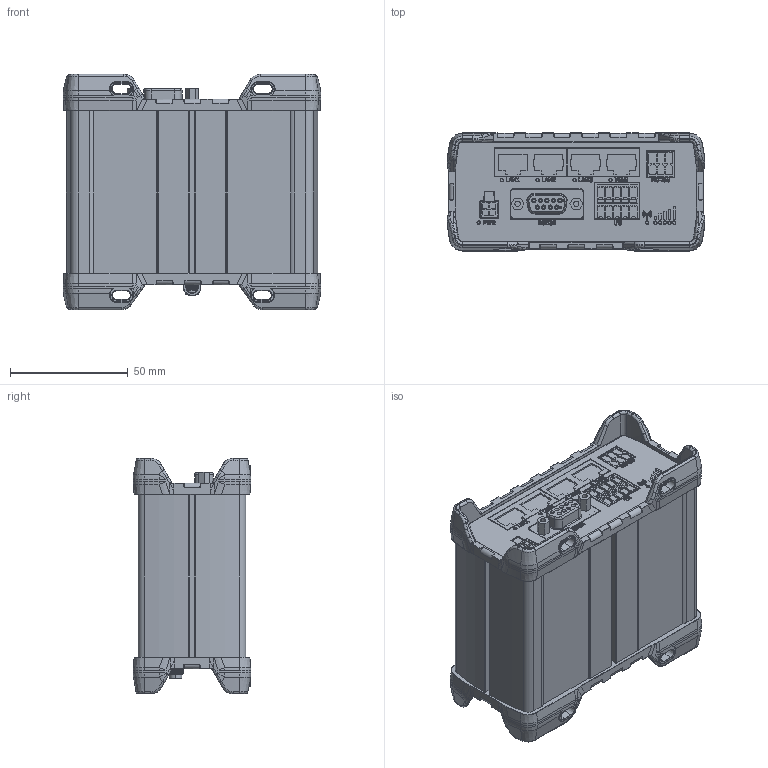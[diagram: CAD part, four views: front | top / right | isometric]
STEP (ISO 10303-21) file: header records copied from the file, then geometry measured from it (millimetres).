
FILE_DESCRIPTION (( 'STEP AP203' ), '1' );
FILE_NAME ('UCR-B8.STEP', '2020-04-20T07:30:10', ( '' ), ( '' ), 'SwSTEP 2.0', 'SolidWorks 2017', '' );
FILE_SCHEMA (( 'CONFIG_CONTROL_DESIGN' ));
Products named in the file (2): UCR-B8
Bounding box: 109.61 x 50.11 x 100.1 mm (x, y, z)
Volume: 374184.6 mm3; surface area: 45283.1 mm2
Topology: 1 solids, 1 shells, 4056 faces, 10570 edges, 6554 vertices
Faces by surface type: plane 1713, bspline 1438, cylinder 761, cone 140, sphere 4
Entity records: 172502 total; most frequent: CARTESIAN_POINT 84503, ORIENTED_EDGE 20794, DIRECTION 14049, EDGE_CURVE 10397, VERTEX_POINT 6554, VECTOR 5673, LINE 5673, EDGE_LOOP 4277
